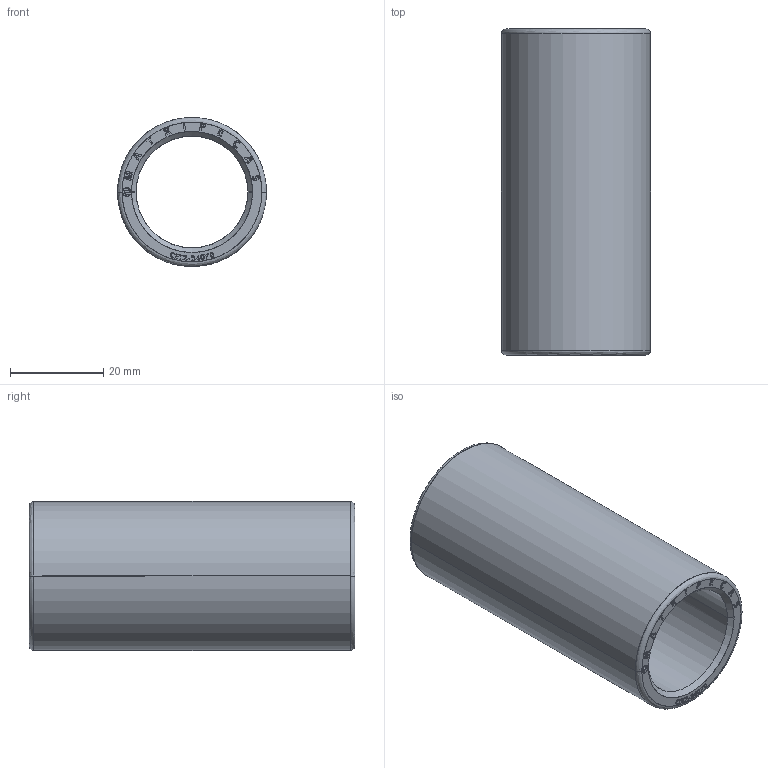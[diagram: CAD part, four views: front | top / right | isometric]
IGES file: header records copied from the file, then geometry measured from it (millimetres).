
Start section: SolidWorks IGES file using analytic representation for surfaces
Global section: file name: D:\Cleonir_arquivos\MT_15_07\Colar De Esferas Tipo 2\CET2-24070.igs; native system: SolidWorks 2013; preprocessor: SolidWorks 2013; author: Cleonir; date: 130728.193509; units: millimetre
Bounding box: 32 x 70 x 32 mm (x, y, z)
Surface area: 13132.6 mm2 (no closed solid volume)
Topology: 0 solids, 0 shells, 311 faces, 3514 edges, 3514 vertices
Faces by surface type: bspline 285, revolution 26
